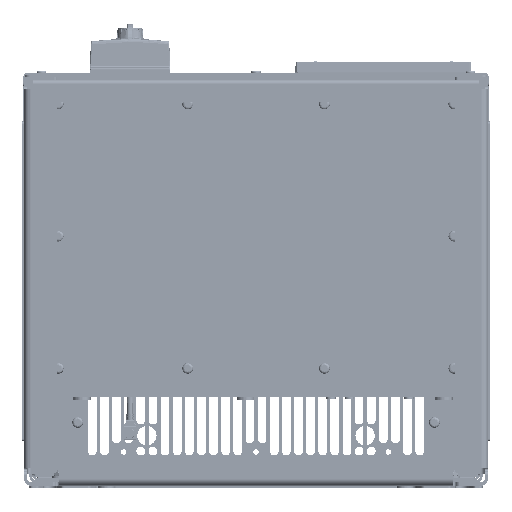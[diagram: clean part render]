
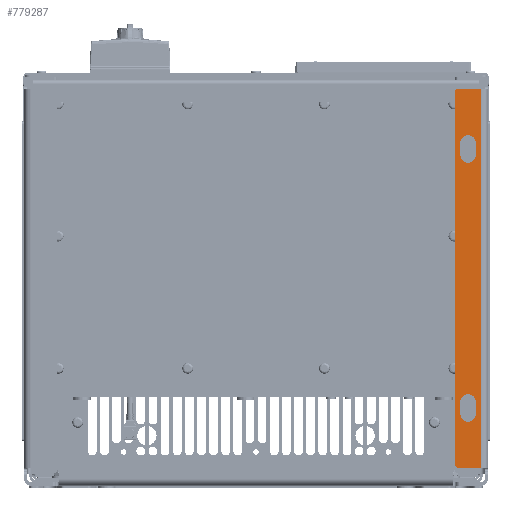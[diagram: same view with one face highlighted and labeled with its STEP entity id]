
A CAD part, front view. The second image highlights one B-rep face of the part: STEP entity #779287.
In plain terms, the highlighted planar face has unit normal (0, -1, 0).
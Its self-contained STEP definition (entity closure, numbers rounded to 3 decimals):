
#774132=DIRECTION('',(0.,0.,1.));
#774133=VECTOR('',#774132,344.);
#774134=CARTESIAN_POINT('',(204.4,-42.113,16.));
#774135=LINE('',#774134,#774133);
#774139=DIRECTION('',(0.,0.,1.));
#774140=VECTOR('',#774139,11.);
#774141=CARTESIAN_POINT('',(185.4,-42.113,300.));
#774142=LINE('',#774141,#774140);
#774146=CARTESIAN_POINT('',(192.4,-42.113,300.));
#774147=DIRECTION('',(0.,-1.,0.));
#774148=DIRECTION('',(-1.,0.,0.));
#774149=AXIS2_PLACEMENT_3D('',#774146,#774147,#774148);
#774154=DIRECTION('',(0.,0.,-1.));
#774155=VECTOR('',#774154,11.);
#774156=CARTESIAN_POINT('',(199.4,-42.113,311.));
#774157=LINE('',#774156,#774155);
#774161=CARTESIAN_POINT('',(192.4,-42.113,311.));
#774162=DIRECTION('',(0.,-1.,0.));
#774163=DIRECTION('',(1.,0.,0.));
#774164=AXIS2_PLACEMENT_3D('',#774161,#774162,#774163);
#774169=DIRECTION('',(0.,0.,1.));
#774170=VECTOR('',#774169,11.);
#774171=CARTESIAN_POINT('',(185.4,-42.113,65.));
#774172=LINE('',#774171,#774170);
#774176=CARTESIAN_POINT('',(192.4,-42.113,65.));
#774177=DIRECTION('',(0.,-1.,0.));
#774178=DIRECTION('',(-1.,0.,0.));
#774179=AXIS2_PLACEMENT_3D('',#774176,#774177,#774178);
#774184=DIRECTION('',(0.,0.,-1.));
#774185=VECTOR('',#774184,11.);
#774186=CARTESIAN_POINT('',(199.4,-42.113,76.));
#774187=LINE('',#774186,#774185);
#774191=CARTESIAN_POINT('',(192.4,-42.113,76.));
#774192=DIRECTION('',(0.,-1.,0.));
#774193=DIRECTION('',(1.,0.,0.));
#774194=AXIS2_PLACEMENT_3D('',#774191,#774192,#774193);
#774199=CARTESIAN_POINT('',(183.6,-42.113,19.2));
#774200=DIRECTION('',(0.,-1.,0.));
#774201=DIRECTION('',(-1.,0.,0.));
#774202=AXIS2_PLACEMENT_3D('',#774199,#774200,#774201);
#774207=DIRECTION('',(0.,0.,-1.));
#774208=VECTOR('',#774207,337.6);
#774209=CARTESIAN_POINT('',(180.4,-42.113,356.8));
#774210=LINE('',#774209,#774208);
#774214=CARTESIAN_POINT('',(183.6,-42.113,356.8));
#774215=DIRECTION('',(0.,-1.,0.));
#774216=DIRECTION('',(0.,0.,1.));
#774217=AXIS2_PLACEMENT_3D('',#774214,#774215,#774216);
#774222=DIRECTION('',(-1.,0.,0.));
#774223=VECTOR('',#774222,20.8);
#774224=CARTESIAN_POINT('',(204.4,-42.113,360.));
#774225=LINE('',#774224,#774223);
#774229=DIRECTION('',(1.,0.,0.));
#774230=VECTOR('',#774229,20.8);
#774231=CARTESIAN_POINT('',(183.6,-42.113,16.));
#774232=LINE('',#774231,#774230);
#777502=CARTESIAN_POINT('',(204.4,-42.113,16.));
#777503=CARTESIAN_POINT('',(204.4,-42.113,360.));
#777504=VERTEX_POINT('',#777502);
#777505=VERTEX_POINT('',#777503);
#777722=CARTESIAN_POINT('',(185.4,-42.113,300.));
#777723=CARTESIAN_POINT('',(185.4,-42.113,311.));
#777724=VERTEX_POINT('',#777722);
#777725=VERTEX_POINT('',#777723);
#777726=CARTESIAN_POINT('',(199.4,-42.113,311.));
#777727=VERTEX_POINT('',#777726);
#777728=CARTESIAN_POINT('',(199.4,-42.113,300.));
#777729=VERTEX_POINT('',#777728);
#777730=CARTESIAN_POINT('',(185.4,-42.113,65.));
#777731=CARTESIAN_POINT('',(185.4,-42.113,76.));
#777732=VERTEX_POINT('',#777730);
#777733=VERTEX_POINT('',#777731);
#777734=CARTESIAN_POINT('',(199.4,-42.113,76.));
#777735=VERTEX_POINT('',#777734);
#777736=CARTESIAN_POINT('',(199.4,-42.113,65.));
#777737=VERTEX_POINT('',#777736);
#777814=CARTESIAN_POINT('',(180.4,-42.113,19.2));
#777815=CARTESIAN_POINT('',(183.6,-42.113,16.));
#777816=VERTEX_POINT('',#777814);
#777817=VERTEX_POINT('',#777815);
#777846=CARTESIAN_POINT('',(183.6,-42.113,360.));
#777847=CARTESIAN_POINT('',(180.4,-42.113,356.8));
#777848=VERTEX_POINT('',#777846);
#777849=VERTEX_POINT('',#777847);
#779249=CARTESIAN_POINT('',(210.4,-42.113,365.));
#779250=DIRECTION('',(0.,-1.,0.));
#779251=DIRECTION('',(0.,0.,1.));
#779252=AXIS2_PLACEMENT_3D('',#779249,#779250,#779251);
#779253=PLANE('',#779252);
#779255=ORIENTED_EDGE('',*,*,#779254,.F.);
#779257=ORIENTED_EDGE('',*,*,#779256,.F.);
#779259=ORIENTED_EDGE('',*,*,#779258,.F.);
#779261=ORIENTED_EDGE('',*,*,#779260,.F.);
#779262=ORIENTED_EDGE('',*,*,#779242,.F.);
#779264=ORIENTED_EDGE('',*,*,#779263,.F.);
#779265=EDGE_LOOP('',(#779255,#779257,#779259,#779261,#779262,#779264));
#779266=FACE_OUTER_BOUND('',#779265,.F.);
#779268=ORIENTED_EDGE('',*,*,#779267,.F.);
#779270=ORIENTED_EDGE('',*,*,#779269,.T.);
#779272=ORIENTED_EDGE('',*,*,#779271,.F.);
#779274=ORIENTED_EDGE('',*,*,#779273,.T.);
#779275=EDGE_LOOP('',(#779268,#779270,#779272,#779274));
#779276=FACE_BOUND('',#779275,.F.);
#779278=ORIENTED_EDGE('',*,*,#779277,.F.);
#779280=ORIENTED_EDGE('',*,*,#779279,.T.);
#779282=ORIENTED_EDGE('',*,*,#779281,.F.);
#779284=ORIENTED_EDGE('',*,*,#779283,.T.);
#779285=EDGE_LOOP('',(#779278,#779280,#779282,#779284));
#779286=FACE_BOUND('',#779285,.F.);
#779287=ADVANCED_FACE('',(#779266,#779276,#779286),#779253,.T.);
#774150=CIRCLE('',#774149,7.);
#774165=CIRCLE('',#774164,7.);
#774180=CIRCLE('',#774179,7.);
#774195=CIRCLE('',#774194,7.);
#774203=CIRCLE('',#774202,3.2);
#774218=CIRCLE('',#774217,3.2);
#779242=EDGE_CURVE('',#777504,#777505,#774135,.T.);
#779254=EDGE_CURVE('',#777816,#777817,#774203,.T.);
#779256=EDGE_CURVE('',#777849,#777816,#774210,.T.);
#779258=EDGE_CURVE('',#777848,#777849,#774218,.T.);
#779260=EDGE_CURVE('',#777505,#777848,#774225,.T.);
#779263=EDGE_CURVE('',#777817,#777504,#774232,.T.);
#779267=EDGE_CURVE('',#777732,#777733,#774172,.T.);
#779269=EDGE_CURVE('',#777732,#777737,#774180,.T.);
#779271=EDGE_CURVE('',#777735,#777737,#774187,.T.);
#779273=EDGE_CURVE('',#777735,#777733,#774195,.T.);
#779277=EDGE_CURVE('',#777724,#777725,#774142,.T.);
#779279=EDGE_CURVE('',#777724,#777729,#774150,.T.);
#779281=EDGE_CURVE('',#777727,#777729,#774157,.T.);
#779283=EDGE_CURVE('',#777727,#777725,#774165,.T.);
